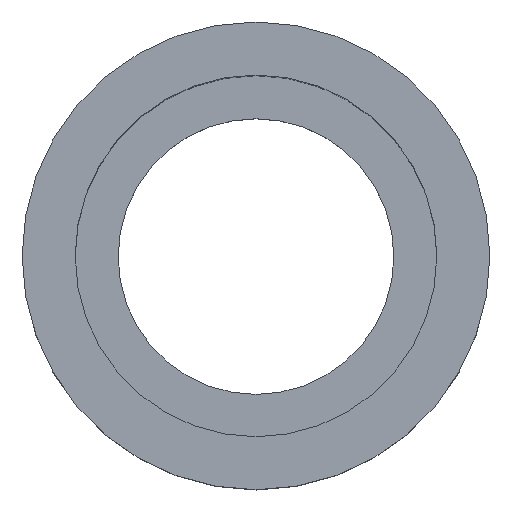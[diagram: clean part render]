
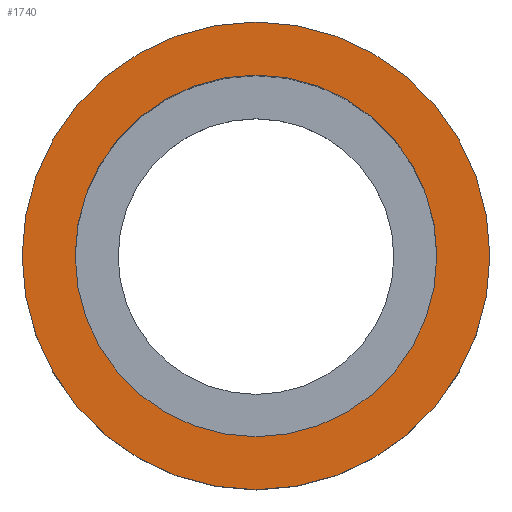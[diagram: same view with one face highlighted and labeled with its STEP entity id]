
A CAD part, top view. The second image highlights one B-rep face of the part: STEP entity #1740.
In plain terms, the highlighted planar face has unit normal (0, 0, 1).
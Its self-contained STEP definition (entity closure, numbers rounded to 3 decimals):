
#460=CARTESIAN_POINT('',(26.653,28.805,91.715));
#470=VERTEX_POINT('',#460);
#650=CARTESIAN_POINT('',(26.653,84.805,91.715));
#660=VERTEX_POINT('',#650);
#690=CARTESIAN_POINT('',(26.653,56.805,91.715));
#700=DIRECTION('',(0.,0.,-1.));
#710=DIRECTION('',(0.,1.,0.));
#720=AXIS2_PLACEMENT_3D('',#690,#700,#710);
#730=CIRCLE('',#720,28.);
#740=EDGE_CURVE('',#470,#660,#730,.T.);
#880=CARTESIAN_POINT('',(26.653,78.455,91.715));
#890=VERTEX_POINT('',#880);
#940=CARTESIAN_POINT('',(26.653,56.805,91.715));
#950=DIRECTION('',(0.,0.,-1.));
#960=DIRECTION('',(0.,-1.,0.));
#970=AXIS2_PLACEMENT_3D('',#940,#950,#960);
#980=CIRCLE('',#970,21.65);
#990=CARTESIAN_POINT('',(26.653,35.155,91.715));
#1000=VERTEX_POINT('',#990);
#1010=EDGE_CURVE('',#890,#1000,#980,.T.);
#1590=CARTESIAN_POINT('',(26.653,30.23,91.715));
#1600=DIRECTION('',(0.,0.,-1.));
#1610=DIRECTION('',(0.,1.,0.));
#1620=AXIS2_PLACEMENT_3D('',#1590,#1600,#1610);
#1630=PLANE('',#1620);
#1640=EDGE_CURVE('',#1000,#890,#980,.T.);
#1650=ORIENTED_EDGE('',*,*,#1640,.T.);
#1660=ORIENTED_EDGE('',*,*,#1010,.T.);
#1670=EDGE_LOOP('',(#1660,#1650));
#1680=FACE_BOUND('',#1670,.T.);
#1690=EDGE_CURVE('',#660,#470,#730,.T.);
#1700=ORIENTED_EDGE('',*,*,#1690,.F.);
#1710=ORIENTED_EDGE('',*,*,#740,.F.);
#1720=EDGE_LOOP('',(#1710,#1700));
#1730=FACE_OUTER_BOUND('',#1720,.T.);
#1740=ADVANCED_FACE('',(#1680,#1730),#1630,.F.);
